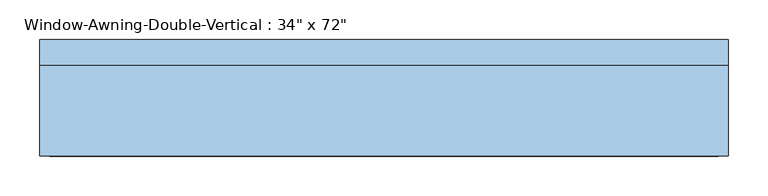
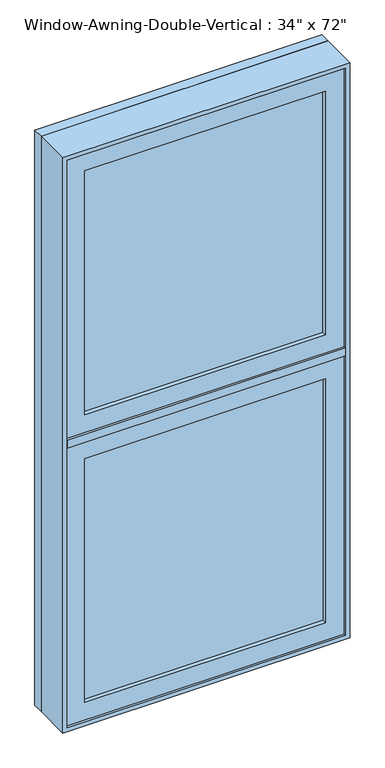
"""IFC4 building model written with IfcOpenShell, lengths in millimetres: window geometry."""

import ifcopenshell
import ifcopenshell.guid

model = None  # the IFC model being written
_history = None  # IfcOwnerHistory: only IFC2X3 demands one
_inside = {}  # id of a spatial element -> (the spatial element, [elements in it])
_under = {}  # id of a project, library or spatial element -> (it, [spatial elements below it])
_declared = {}  # id of a project -> (the project, [libraries it declares])
_typed = {}  # id of a type object -> (the type object, [elements of that type])
_made_of = {}  # id of a material, layer set ... -> (it, [elements and type objects made of it])


def new_model(schema):
    """Start an empty IFC model of exactly this schema.

    Asked for "IFC4X3", IfcOpenShell would pick the latest addendum, in which some entities
    have other attributes; the version numbers below select the first issue.
    IFC2X3 requires an IfcOwnerHistory on every rooted entity: one is made here for all.
    """
    global model, _history
    if schema == "IFC4X3":
        model = ifcopenshell.file(schema_version=(4, 3, 0, 0))
    else:
        model = ifcopenshell.file(schema=schema)
    _inside.clear()
    _under.clear()
    _declared.clear()
    _typed.clear()
    _made_of.clear()
    _history = None
    if model.schema == "IFC2X3":
        org = make("IfcOrganization", Name="unknown")
        user = make(
            "IfcPersonAndOrganization",
            ThePerson=make("IfcPerson", FamilyName="unknown"),
            TheOrganization=org,
        )
        app = make(
            "IfcApplication",
            ApplicationDeveloper=org,
            Version="unknown",
            ApplicationFullName="unknown",
            ApplicationIdentifier="unknown",
        )
        _history = make(
            "IfcOwnerHistory",
            OwningUser=user,
            OwningApplication=app,
            ChangeAction="ADDED",
            CreationDate=0,
        )
    return model


def make(cls, **values):
    """One entity of the class cls with the attributes given. An attribute that is None is left unset."""
    return model.create_entity(
        cls, **{name: value for name, value in values.items() if value is not None}
    )


def rooted(cls, **values):
    """An entity with a GlobalId (a new one), such as an element, a storey or a relation."""
    return make(cls, GlobalId=ifcopenshell.guid.new(), OwnerHistory=_history, **values)


def si_unit(unit_type, name, prefix=None):
    """IfcSIUnit, for example si_unit("LENGTHUNIT", "METRE", prefix="MILLI")."""
    return make("IfcSIUnit", UnitType=unit_type, Prefix=prefix, Name=name)


def assignment(units):
    """IfcUnitAssignment: the units of a project."""
    return None if units is None else make("IfcUnitAssignment", Units=units)


def point(xyz):
    """IfcCartesianPoint."""
    return None if xyz is None else make("IfcCartesianPoint", Coordinates=xyz)


def direction(xyz):
    """IfcDirection."""
    return None if xyz is None else make("IfcDirection", DirectionRatios=xyz)


def frame(location, z_axis=None, x_axis=None):
    """IfcAxis2Placement3D, a coordinate frame: its origin and axes. An axis left out is left unset."""
    return make(
        "IfcAxis2Placement3D",
        Location=point(location),
        Axis=direction(z_axis),
        RefDirection=direction(x_axis),
    )


def origin():
    """The frame at (0, 0, 0) with its axes left unset."""
    return frame((0.0, 0.0, 0.0))


def place(relative_to, where):
    """IfcLocalPlacement: puts the frame where relative to a parent placement (None: the world)."""
    return make(
        "IfcLocalPlacement", PlacementRelTo=relative_to, RelativePlacement=where
    )


def context(
    kind, dimensions, precision=None, world=None, true_north=None, identifier=None
):
    """IfcGeometricRepresentationContext, for example the 3D "Model" context."""
    return make(
        "IfcGeometricRepresentationContext",
        ContextIdentifier=identifier,
        ContextType=kind,
        CoordinateSpaceDimension=dimensions,
        Precision=precision,
        WorldCoordinateSystem=world,
        TrueNorth=true_north,
    )


def project(units=None, contexts=None):
    """IfcProject with its units and contexts."""
    return rooted(
        "IfcProject",
        Name="project",
        RepresentationContexts=contexts,
        UnitsInContext=assignment(units),
    )


def spatial(cls, under=None, at=None, **own):
    """A site, building, storey or space (cls), placed at a placement, below another one or the project."""
    s = rooted(cls, ObjectPlacement=at, **own)
    if under is not None:
        _under.setdefault(under.id(), (under, []))[1].append(s)
    return s


def polyline(points):
    """IfcPolyline through the points."""
    return make("IfcPolyline", Points=[point(p) for p in points])


def outline(outer, holes=None, kind="AREA"):
    """IfcArbitraryClosedProfileDef: a profile drawn as a closed curve; with holes, ...WithVoids."""
    if holes is None:
        return make("IfcArbitraryClosedProfileDef", ProfileType=kind, OuterCurve=outer)
    return make(
        "IfcArbitraryProfileDefWithVoids",
        ProfileType=kind,
        OuterCurve=outer,
        InnerCurves=holes,
    )


def extrude(swept, where, along, depth):
    """IfcExtrudedAreaSolid: the profile swept, set in the frame where, extruded along a direction by depth."""
    return make(
        "IfcExtrudedAreaSolid",
        SweptArea=swept,
        Position=where,
        ExtrudedDirection=direction(along),
        Depth=depth,
    )


def faces_of(points, faces, orient=None, outer=None):
    """IfcFace entities. A face is a list of loops; a loop is a list of indices into points, from 0.

    orient and outer hold one flag for each loop. By default every Orientation is true, the
    first loop of a face is its IfcFaceOuterBound and the others are IfcFaceBound.
    """
    made = []
    for i, loops in enumerate(faces):
        bounds = []
        for j, loop in enumerate(loops):
            is_outer = j == 0 if outer is None else outer[i][j]
            bounds.append(
                make(
                    "IfcFaceOuterBound" if is_outer else "IfcFaceBound",
                    Bound=make("IfcPolyLoop", Polygon=[points[k] for k in loop]),
                    Orientation=True if orient is None else orient[i][j],
                )
            )
        made.append(make("IfcFace", Bounds=bounds))
    return made


def faceted_brep(points, faces, orient=None, outer=None, voids=None):
    """IfcFacetedBrep: a solid bounded by flat faces; with voids (closed shells), ...WithVoids."""
    shared = [point(p) for p in points]
    hull = make("IfcClosedShell", CfsFaces=faces_of(shared, faces, orient, outer))
    if voids is None:
        return make("IfcFacetedBrep", Outer=hull)
    return make(
        "IfcFacetedBrepWithVoids",
        Outer=hull,
        Voids=[
            make(cls, CfsFaces=faces_of(shared, fs, o, b)) for cls, fs, o, b in voids
        ],
    )


def shape(context_of_items, identifier, shape_type, items):
    """IfcShapeRepresentation: the items that make up one representation, for example the "Body"."""
    return make(
        "IfcShapeRepresentation",
        ContextOfItems=context_of_items,
        RepresentationIdentifier=identifier,
        RepresentationType=shape_type,
        Items=items,
    )


def source(mapping_origin, context_of_items, identifier, shape_type, items):
    """IfcRepresentationMap: a shape defined once, which mapped items show again and again."""
    return make(
        "IfcRepresentationMap",
        MappingOrigin=mapping_origin,
        MappedRepresentation=shape(context_of_items, identifier, shape_type, items),
    )


def transform(
    local_origin,
    x_axis=None,
    y_axis=None,
    z_axis=None,
    scale=None,
    scale2=None,
    scale3=None,
    uniform=True,
):
    """IfcCartesianTransformationOperator3D, or its non-uniform kind. x_axis, y_axis, z_axis: its Axis1, 2, 3."""
    if uniform:
        return make(
            "IfcCartesianTransformationOperator3D",
            Axis1=direction(x_axis),
            Axis2=direction(y_axis),
            LocalOrigin=point(local_origin),
            Scale=scale,
            Axis3=direction(z_axis),
        )
    return make(
        "IfcCartesianTransformationOperator3DnonUniform",
        Axis1=direction(x_axis),
        Axis2=direction(y_axis),
        LocalOrigin=point(local_origin),
        Scale=scale,
        Axis3=direction(z_axis),
        Scale2=scale2,
        Scale3=scale3,
    )


def mapped(mapping_source, mapping_target):
    """IfcMappedItem: shows the shape of a source again, moved by a transform."""
    return make(
        "IfcMappedItem", MappingSource=mapping_source, MappingTarget=mapping_target
    )


def made_of(thing, what):
    """Note that an element or type object is made of a material, layer set ...; save() writes the relation."""
    if what is not None:
        _made_of.setdefault(what.id(), (what, []))[1].append(thing)
    return thing


def element(
    cls,
    number,
    at=None,
    inside=None,
    cuts=None,
    type_object=None,
    material=None,
    context=None,
    identifier="Body",
    shape_type=None,
    held_by="IfcProductDefinitionShape",
    body=None,
    shapes=None,
    **own,
):
    """One element of the class cls, such as IfcWall. Its Tag is "e" and its number.

    at: its placement. inside: the storey or other place that contains it. cuts: it is an
    opening in that element (IfcRelVoidsElement). A single representation is given by context,
    identifier, shape_type and body (its items); several are given by shapes. held_by: the class
    of the entity that holds the representations. save() writes the other relations.
    """
    e = rooted(cls, Tag="e%d" % number, ObjectPlacement=at, **own)
    if body is not None:
        shapes = [shape(context, identifier, shape_type, body)]
    if shapes is not None:
        e.Representation = make(held_by, Representations=shapes)
    if inside is not None:
        _inside.setdefault(inside.id(), (inside, []))[1].append(e)
    if cuts is not None:
        rooted(
            "IfcRelVoidsElement", RelatingBuildingElement=cuts, RelatedOpeningElement=e
        )
    if type_object is not None:
        _typed.setdefault(type_object.id(), (type_object, []))[1].append(e)
    return made_of(e, material)


def aggregate(whole, parts):
    """IfcRelAggregates: a whole, such as a stair, and the parts it consists of."""
    return rooted("IfcRelAggregates", RelatingObject=whole, RelatedObjects=parts)


def save(model, path):
    """Write the relations noted so far, then the file.

    IfcRelAggregates (storeys below a building ...), IfcRelContainedInSpatialStructure (elements
    in a storey), IfcRelDefinesByType, IfcRelAssociatesMaterial and IfcRelDeclares: one each for
    every whole, place, type object, material and project.
    """
    for whole, parts in _under.values():
        aggregate(whole, parts)
    for where, things in _inside.values():
        rooted(
            "IfcRelContainedInSpatialStructure",
            RelatedElements=things,
            RelatingStructure=where,
        )
    for kind, things in _typed.values():
        rooted("IfcRelDefinesByType", RelatedObjects=things, RelatingType=kind)
    for what, things in _made_of.values():
        rooted("IfcRelAssociatesMaterial", RelatedObjects=things, RelatingMaterial=what)
    for by, libraries in _declared.values():
        rooted("IfcRelDeclares", RelatingContext=by, RelatedDefinitions=libraries)
    model.write(path)


def window_a763ad01(model_context):
    return source(origin(), model_context, "Body", "SolidModel", [
        extrude(outline(polyline([(2743.2, -431.8), (914.4, -431.8), (914.4, 431.8), (2743.2, 431.8), (2743.2, -431.8)]), holes=[polyline([(2724.15, -412.75), (2724.15, 412.75), (933.45, 412.75), (933.45, -412.75), (2724.15, -412.75)])]), frame((0.0, 31.75, 0.0), z_axis=(0.0, 1.0, 0.0), x_axis=(0.0, 0.0, 1.0)), (0.0, 0.0, 1.0), 31.75),
        faceted_brep([(-431.8, 31.75, 2743.2), (-431.8, 31.75, 914.4), (-431.8, -82.55, 914.4), (-431.8, -82.55, 2743.2), (-419.1, -82.55, 2730.5), (-419.1, -82.55, 927.1), (-419.1, -31.75, 927.1), (-419.1, -31.75, 2730.5), (-400.05, -31.75, 2711.45), (-400.05, -31.75, 946.15), (-400.05, 31.75, 946.15), (-400.05, 31.75, 2711.45), (431.8, 31.75, 914.4), (431.8, -82.55, 914.4), (419.1, -82.55, 927.1), (419.1, -31.75, 927.1), (400.05, -31.75, 946.15), (400.05, 31.75, 946.15), (431.8, 31.75, 2743.2), (431.8, -82.55, 2743.2), (419.1, -82.55, 2730.5), (419.1, -31.75, 2730.5), (400.05, -31.75, 2711.45), (400.05, 31.75, 2711.45)], [[[0, 1, 2, 3]], [[4, 5, 6, 7]], [[8, 9, 10, 11]], [[1, 12, 13, 2]], [[5, 14, 15, 6]], [[9, 16, 17, 10]], [[12, 18, 19, 13]], [[14, 20, 21, 15]], [[16, 22, 23, 17]], [[1, 0, 18, 12], [11, 10, 17, 23]], [[18, 0, 3, 19]], [[3, 2, 13, 19], [5, 4, 20, 14]], [[20, 4, 7, 21]], [[7, 6, 15, 21], [9, 8, 22, 16]], [[22, 8, 11, 23]]]),
        extrude(outline(polyline([(2730.5, -419.1), (1841.5, -419.1), (1841.5, 419.1), (2730.5, 419.1), (2730.5, -419.1)]), holes=[polyline([(1898.65, -361.95), (2673.35, -361.95), (2673.35, 361.95), (1898.65, 361.95), (1898.65, -361.95)])]), frame((0.0, -76.2, 0.0), z_axis=(0.0, 1.0, 0.0), x_axis=(0.0, 0.0, 1.0)), (0.0, 0.0, 1.0), 44.45),
        extrude(outline(polyline([(361.95, -63.5), (-361.95, -63.5), (-361.95, -57.15), (361.95, -57.15), (361.95, -63.5)])), frame((0.0, 0.0, 1898.65), z_axis=(0.0, 0.0, 1.0), x_axis=(1.0, 0.0, 0.0)), (0.0, 0.0, 1.0), 774.7),
        extrude(outline(polyline([(361.95, -50.8), (-361.95, -50.8), (-361.95, -44.45), (361.95, -44.45), (361.95, -50.8)])), frame((0.0, 0.0, 1898.65), z_axis=(0.0, 0.0, 1.0), x_axis=(1.0, 0.0, 0.0)), (0.0, 0.0, 1.0), 774.7),
        extrude(outline(polyline([(361.95, -63.5), (-361.95, -63.5), (-361.95, -57.15), (361.95, -57.15), (361.95, -63.5)])), frame((0.0, 0.0, 984.25), z_axis=(0.0, 0.0, 1.0), x_axis=(1.0, 0.0, 0.0)), (0.0, 0.0, 1.0), 774.7),
        extrude(outline(polyline([(361.95, -50.8), (-361.95, -50.8), (-361.95, -44.45), (361.95, -44.45), (361.95, -50.8)])), frame((0.0, 0.0, 984.25), z_axis=(0.0, 0.0, 1.0), x_axis=(1.0, 0.0, 0.0)), (0.0, 0.0, 1.0), 774.7),
        extrude(outline(polyline([(-419.1, -31.75), (-400.05, -31.75), (-400.05, 31.75), (400.05, 31.75), (400.05, -31.75), (419.1, -31.75), (419.1, -82.55), (-419.1, -82.55), (-419.1, -31.75)])), frame((0.0, 0.0, 1816.1), z_axis=(0.0, 0.0, 1.0), x_axis=(1.0, 0.0, 0.0)), (0.0, 0.0, 1.0), 25.4),
        extrude(outline(polyline([(927.1, -419.1), (927.1, 419.1), (1816.1, 419.1), (1816.1, -419.1), (927.1, -419.1)]), holes=[polyline([(984.25, 361.95), (984.25, -361.95), (1758.95, -361.95), (1758.95, 361.95), (984.25, 361.95)])]), frame((0.0, -76.2, 0.0), z_axis=(0.0, 1.0, 0.0), x_axis=(0.0, 0.0, 1.0)), (0.0, 0.0, 1.0), 44.45),
    ])


if __name__ == "__main__":
    model = new_model("IFC4")
    model_context = context("Model", 3, world=origin())
    ifc_project = project(units=[si_unit("LENGTHUNIT", "METRE", prefix="MILLI")], contexts=[model_context])
    site = spatial("IfcSite", under=ifc_project)
    building = spatial("IfcBuilding", under=site)
    placement = place(None, origin())
    window_shape = window_a763ad01(model_context)
    element("IfcWindow", 1, ObjectType="Window-Awning-Double-Vertical : 34\" x 72\"", at=placement, inside=building, context=model_context, shape_type="MappedRepresentation", body=[
        mapped(window_shape, transform((0.0, 0.0, 0.0), x_axis=(1.0, 0.0, 0.0), y_axis=(0.0, 1.0, 0.0), z_axis=(0.0, 0.0, 1.0))),
    ])
    save(model, "model.ifc")
